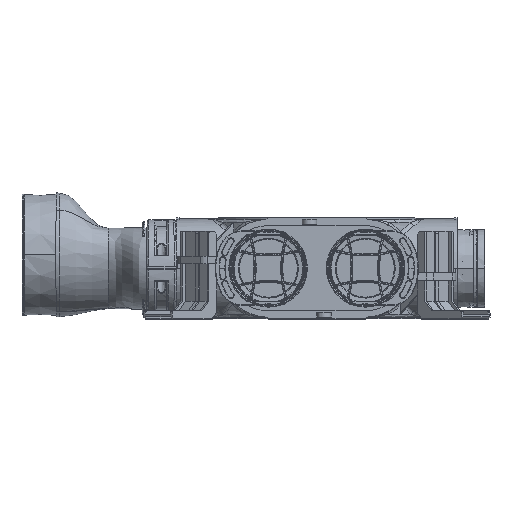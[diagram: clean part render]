
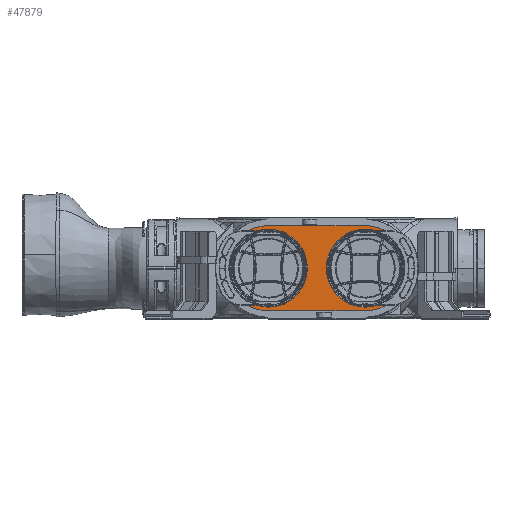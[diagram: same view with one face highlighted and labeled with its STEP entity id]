
A CAD part, top view. The second image highlights one B-rep face of the part: STEP entity #47879.
In plain terms, the highlighted planar face has unit normal (0, 0, 1) as drawn and (0, -1, 0) by its records, which use the part's own axes.
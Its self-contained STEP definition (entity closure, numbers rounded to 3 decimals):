
#31309=CARTESIAN_POINT('',(-50.,-1.75,0.));
#31310=DIRECTION('',(0.,1.,0.));
#31311=DIRECTION('',(0.,0.,-1.));
#31312=AXIS2_PLACEMENT_3D('',#31309,#31310,#31311);
#31314=DIRECTION('',(1.,0.,0.));
#31315=VECTOR('',#31314,100.);
#31316=CARTESIAN_POINT('',(-50.,-1.75,44.));
#31317=LINE('',#31316,#31315);
#31318=CARTESIAN_POINT('',(50.,-1.75,0.));
#31319=DIRECTION('',(0.,1.,0.));
#31320=DIRECTION('',(0.,0.,1.));
#31321=AXIS2_PLACEMENT_3D('',#31318,#31319,#31320);
#31323=CARTESIAN_POINT('',(50.,-1.75,0.));
#31324=DIRECTION('',(0.,1.,0.));
#31325=DIRECTION('',(1.,0.,0.));
#31326=AXIS2_PLACEMENT_3D('',#31323,#31324,#31325);
#31328=DIRECTION('',(-1.,0.,0.));
#31329=VECTOR('',#31328,100.);
#31330=CARTESIAN_POINT('',(50.,-1.75,-44.));
#31331=LINE('',#31330,#31329);
#31332=CARTESIAN_POINT('',(50.,-1.75,0.));
#31333=DIRECTION('',(0.,-1.,0.));
#31334=DIRECTION('',(1.,0.,0.));
#31335=AXIS2_PLACEMENT_3D('',#31332,#31333,#31334);
#31337=CARTESIAN_POINT('',(50.,-1.75,0.));
#31338=DIRECTION('',(0.,-1.,0.));
#31339=DIRECTION('',(-1.,0.,0.));
#31340=AXIS2_PLACEMENT_3D('',#31337,#31338,#31339);
#31342=CARTESIAN_POINT('',(-50.,-1.75,0.));
#31343=DIRECTION('',(0.,-1.,0.));
#31344=DIRECTION('',(1.,0.,0.));
#31345=AXIS2_PLACEMENT_3D('',#31342,#31343,#31344);
#31347=CARTESIAN_POINT('',(-50.,-1.75,0.));
#31348=DIRECTION('',(0.,-1.,0.));
#31349=DIRECTION('',(-1.,0.,0.));
#31350=AXIS2_PLACEMENT_3D('',#31347,#31348,#31349);
#45266=CARTESIAN_POINT('',(9.8,-1.75,
0.));
#45267=CARTESIAN_POINT('',(90.2,-1.75,0.));
#45268=VERTEX_POINT('',#45266);
#45269=VERTEX_POINT('',#45267);
#45294=CARTESIAN_POINT('',(-50.,-1.75,-44.));
#45295=CARTESIAN_POINT('',(-50.,-1.75,44.));
#45296=VERTEX_POINT('',#45294);
#45297=VERTEX_POINT('',#45295);
#45298=CARTESIAN_POINT('',(50.,-1.75,44.));
#45299=VERTEX_POINT('',#45298);
#45300=CARTESIAN_POINT('',(94.,-1.75,0.));
#45301=VERTEX_POINT('',#45300);
#45302=CARTESIAN_POINT('',(50.,-1.75,-44.));
#45303=VERTEX_POINT('',#45302);
#45304=CARTESIAN_POINT('',(-9.8,-1.75,
0.));
#45305=CARTESIAN_POINT('',(-90.2,-1.75,0.));
#45306=VERTEX_POINT('',#45304);
#45307=VERTEX_POINT('',#45305);
#47851=CARTESIAN_POINT('',(0.,-1.75,0.));
#47852=DIRECTION('',(0.,-1.,0.));
#47853=DIRECTION('',(-1.,0.,0.));
#47854=AXIS2_PLACEMENT_3D('',#47851,#47852,#47853);
#47855=PLANE('',#47854);
#47857=ORIENTED_EDGE('',*,*,#47856,.T.);
#47859=ORIENTED_EDGE('',*,*,#47858,.T.);
#47861=ORIENTED_EDGE('',*,*,#47860,.T.);
#47863=ORIENTED_EDGE('',*,*,#47862,.T.);
#47865=ORIENTED_EDGE('',*,*,#47864,.T.);
#47866=EDGE_LOOP('',(#47857,#47859,#47861,#47863,#47865));
#47867=FACE_OUTER_BOUND('',#47866,.F.);
#47869=ORIENTED_EDGE('',*,*,#47868,.T.);
#47870=ORIENTED_EDGE('',*,*,#47809,.T.);
#47871=EDGE_LOOP('',(#47869,#47870));
#47872=FACE_BOUND('',#47871,.F.);
#47874=ORIENTED_EDGE('',*,*,#47873,.T.);
#47876=ORIENTED_EDGE('',*,*,#47875,.T.);
#47877=EDGE_LOOP('',(#47874,#47876));
#47878=FACE_BOUND('',#47877,.F.);
#47879=ADVANCED_FACE('',(#47867,#47872,#47878),#47855,.T.);
#31313=CIRCLE('',#31312,44.);
#31322=CIRCLE('',#31321,44.);
#31327=CIRCLE('',#31326,44.);
#31336=CIRCLE('',#31335,40.2);
#31341=CIRCLE('',#31340,40.2);
#31346=CIRCLE('',#31345,40.2);
#31351=CIRCLE('',#31350,40.2);
#47809=EDGE_CURVE('',#45268,#45269,#31341,.T.);
#47856=EDGE_CURVE('',#45296,#45297,#31313,.T.);
#47858=EDGE_CURVE('',#45297,#45299,#31317,.T.);
#47860=EDGE_CURVE('',#45299,#45301,#31322,.T.);
#47862=EDGE_CURVE('',#45301,#45303,#31327,.T.);
#47864=EDGE_CURVE('',#45303,#45296,#31331,.T.);
#47868=EDGE_CURVE('',#45269,#45268,#31336,.T.);
#47873=EDGE_CURVE('',#45306,#45307,#31346,.T.);
#47875=EDGE_CURVE('',#45307,#45306,#31351,.T.);
